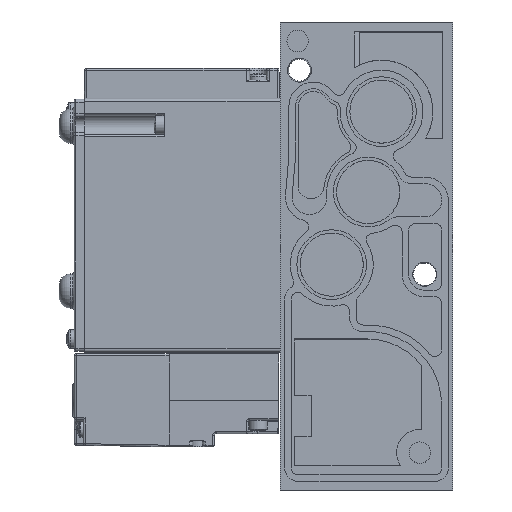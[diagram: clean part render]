
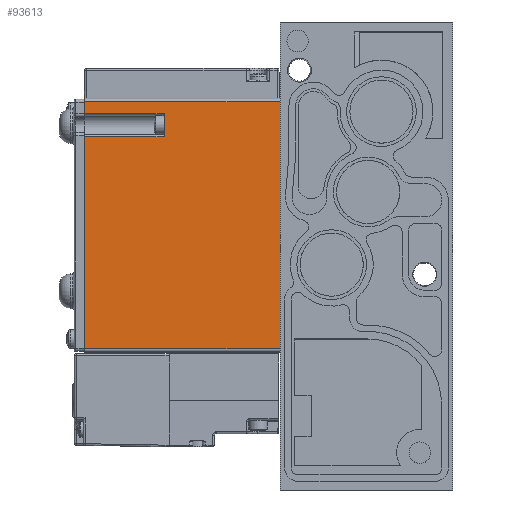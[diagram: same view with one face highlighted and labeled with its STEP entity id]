
A CAD part, left-side view. The second image highlights one B-rep face of the part: STEP entity #93613.
In plain terms, the highlighted planar face has unit normal (-1, 0, 0).
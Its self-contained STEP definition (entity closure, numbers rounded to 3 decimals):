
#592 = VERTEX_POINT ( 'NONE', #17902 ) ;
#2529 = CARTESIAN_POINT ( 'NONE',  ( -12., 35., 26.75 ) ) ;
#2969 = ORIENTED_EDGE ( 'NONE', *, *, #58479, .T. ) ;
#4023 = CARTESIAN_POINT ( 'NONE',  ( -12., 59., 37.25 ) ) ;
#5362 = VERTEX_POINT ( 'NONE', #18655 ) ;
#5533 = VECTOR ( 'NONE', #29176, 1000. ) ;
#6935 = VECTOR ( 'NONE', #54679, 1000. ) ;
#7274 = DIRECTION ( 'NONE',  ( 0., 1., 0. ) ) ;
#7972 = EDGE_CURVE ( 'NONE', #5362, #81234, #29152, .T. ) ;
#8964 = EDGE_CURVE ( 'NONE', #81234, #33854, #90161, .T. ) ;
#9531 = VECTOR ( 'NONE', #88895, 1000. ) ;
#9943 = DIRECTION ( 'NONE',  ( 0., 0., 1. ) ) ;
#9961 = EDGE_CURVE ( 'NONE', #69479, #33854, #12678, .T. ) ;
#11291 = CARTESIAN_POINT ( 'NONE',  ( -12., 59., 38.25 ) ) ;
#12657 = ORIENTED_EDGE ( 'NONE', *, *, #8964, .F. ) ;
#12678 = LINE ( 'NONE', #88656, #49423 ) ;
#12903 = EDGE_CURVE ( 'NONE', #69479, #62489, #33871, .T. ) ;
#13381 = VECTOR ( 'NONE', #78000, 1000. ) ;
#13450 = ORIENTED_EDGE ( 'NONE', *, *, #92591, .T. ) ;
#15731 = CARTESIAN_POINT ( 'NONE',  ( -12., 35., 26.75 ) ) ;
#17902 = CARTESIAN_POINT ( 'NONE',  ( -12., 59., 26.75 ) ) ;
#18051 = ORIENTED_EDGE ( 'NONE', *, *, #7972, .F. ) ;
#18593 = DIRECTION ( 'NONE',  ( 0., 0., 1. ) ) ;
#18655 = CARTESIAN_POINT ( 'NONE',  ( -12., 35., 33.75 ) ) ;
#22363 = CARTESIAN_POINT ( 'NONE',  ( -12., 59., 38.25 ) ) ;
#26412 = CARTESIAN_POINT ( 'NONE',  ( -12., 0., 38.25 ) ) ;
#26460 = CARTESIAN_POINT ( 'NONE',  ( -12., 59., 33.75 ) ) ;
#27633 = ORIENTED_EDGE ( 'NONE', *, *, #9961, .T. ) ;
#28694 = LINE ( 'NONE', #32570, #6935 ) ;
#29152 = LINE ( 'NONE', #80641, #65857 ) ;
#29176 = DIRECTION ( 'NONE',  ( 0., -1., 0. ) ) ;
#30993 = LINE ( 'NONE', #15731, #50564 ) ;
#31758 = EDGE_CURVE ( 'NONE', #77667, #5362, #71443, .T. ) ;
#32204 = EDGE_CURVE ( 'NONE', #53535, #592, #28694, .T. ) ;
#32365 = VECTOR ( 'NONE', #9943, 1000. ) ;
#32570 = CARTESIAN_POINT ( 'NONE',  ( -12., 59., 38.25 ) ) ;
#33854 = VERTEX_POINT ( 'NONE', #4023 ) ;
#33871 = LINE ( 'NONE', #26412, #13381 ) ;
#34843 = EDGE_LOOP ( 'NONE', ( #42411, #13450, #45957, #27633, #12657, #18051, #62500, #2969 ) ) ;
#42411 = ORIENTED_EDGE ( 'NONE', *, *, #32204, .F. ) ;
#44117 = CARTESIAN_POINT ( 'NONE',  ( -12., 0., -37.25 ) ) ;
#45957 = ORIENTED_EDGE ( 'NONE', *, *, #12903, .F. ) ;
#47117 = CARTESIAN_POINT ( 'NONE',  ( -12., 59., -37.25 ) ) ;
#49423 = VECTOR ( 'NONE', #59095, 1000. ) ;
#50564 = VECTOR ( 'NONE', #74906, 1000. ) ;
#53535 = VERTEX_POINT ( 'NONE', #47117 ) ;
#54679 = DIRECTION ( 'NONE',  ( 0., 0., 1. ) ) ;
#58371 = CARTESIAN_POINT ( 'NONE',  ( -12., 0., -37.25 ) ) ;
#58479 = EDGE_CURVE ( 'NONE', #77667, #592, #30993, .T. ) ;
#59095 = DIRECTION ( 'NONE',  ( 0., 1., 0. ) ) ;
#59933 = CARTESIAN_POINT ( 'NONE',  ( -12., 0., 37.25 ) ) ;
#62489 = VERTEX_POINT ( 'NONE', #44117 ) ;
#62500 = ORIENTED_EDGE ( 'NONE', *, *, #31758, .F. ) ;
#62533 = DIRECTION ( 'NONE',  ( -1., 0., 0. ) ) ;
#63965 = LINE ( 'NONE', #58371, #5533 ) ;
#64394 = AXIS2_PLACEMENT_3D ( 'NONE', #11291, #62533, #18593 ) ;
#65857 = VECTOR ( 'NONE', #7274, 1000. ) ;
#69479 = VERTEX_POINT ( 'NONE', #59933 ) ;
#69691 = PLANE ( 'NONE',  #64394 ) ;
#71443 = LINE ( 'NONE', #2529, #32365 ) ;
#74906 = DIRECTION ( 'NONE',  ( 0., 1., 0. ) ) ;
#77667 = VERTEX_POINT ( 'NONE', #90778 ) ;
#78000 = DIRECTION ( 'NONE',  ( 0., 0., -1. ) ) ;
#80641 = CARTESIAN_POINT ( 'NONE',  ( -12., 35., 33.75 ) ) ;
#81234 = VERTEX_POINT ( 'NONE', #26460 ) ;
#84122 = FACE_OUTER_BOUND ( 'NONE', #34843, .T. ) ;
#88656 = CARTESIAN_POINT ( 'NONE',  ( -12., 59., 37.25 ) ) ;
#88895 = DIRECTION ( 'NONE',  ( 0., 0., 1. ) ) ;
#90161 = LINE ( 'NONE', #22363, #9531 ) ;
#90778 = CARTESIAN_POINT ( 'NONE',  ( -12., 35., 26.75 ) ) ;
#92591 = EDGE_CURVE ( 'NONE', #53535, #62489, #63965, .T. ) ;
#93613 = ADVANCED_FACE ( 'NONE', ( #84122 ), #69691, .T. ) ;
